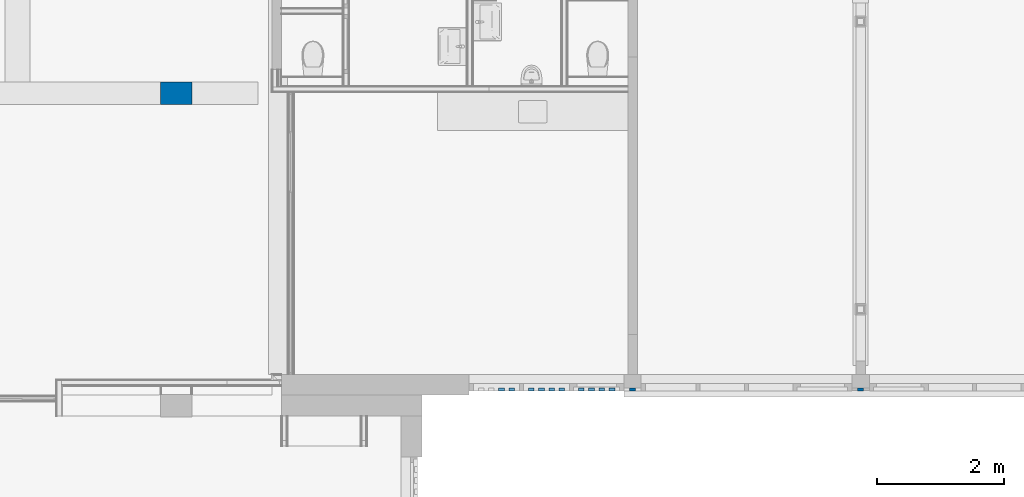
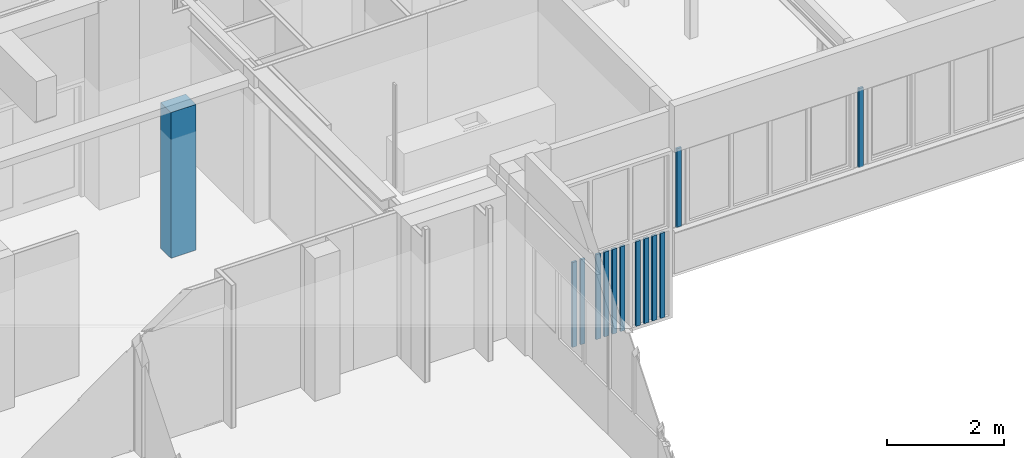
# One storey, part 15 of 117: 13 columns.
"""IFC2X3 building model written with IfcOpenShell, lengths in millimetres."""

from ifc_helpers import new_model, entity, si_unit, converted_unit, derived_unit, money_unit, direction, frame, origin_with_axes, place, context, subcontext, project, spatial, faceted_brep, material, type_object, element, save


model = new_model("IFC2X3")

# Units and contexts
model_context = context("Model", 3, precision=0.01, world=origin_with_axes(), true_north=direction((0.0, 1.0)))
body_context = subcontext(model_context, "Body", "Model", "MODEL_VIEW")
ifc_project = project(units=[si_unit("LENGTHUNIT", "METRE", prefix="MILLI"), si_unit("AREAUNIT", "SQUARE_METRE"), si_unit("VOLUMEUNIT", "CUBIC_METRE"), converted_unit("PLANEANGLEUNIT", "DEGREE", entity("IfcPlaneAngleMeasure", 0.0174532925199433), si_unit("PLANEANGLEUNIT", "RADIAN"), dimensions=[0, 0, 0, 0, 0, 0, 0]), money_unit("EUR"), converted_unit("TIMEUNIT", "Year", entity("IfcTimeMeasure", 31557600.0), si_unit("TIMEUNIT", "SECOND"), dimensions=[0, 0, 1, 0, 0, 0, 0]), si_unit("MASSUNIT", "GRAM", prefix="KILO"), si_unit("THERMODYNAMICTEMPERATUREUNIT", "DEGREE_CELSIUS"), si_unit("LUMINOUSINTENSITYUNIT", "LUMEN"), si_unit("ENERGYUNIT", "JOULE", prefix="MEGA"), derived_unit("THERMALCONDUCTANCEUNIT", [(si_unit("POWERUNIT", "WATT"), 1), (si_unit("LENGTHUNIT", "METRE"), -1), (si_unit("THERMODYNAMICTEMPERATUREUNIT", "KELVIN"), -1)]), derived_unit("SPECIFICHEATCAPACITYUNIT", [(si_unit("ENERGYUNIT", "JOULE"), 1), (si_unit("MASSUNIT", "GRAM", prefix="KILO"), -1), (si_unit("THERMODYNAMICTEMPERATUREUNIT", "KELVIN"), -1)]), derived_unit("MASSDENSITYUNIT", [(si_unit("MASSUNIT", "GRAM", prefix="KILO"), 1), (si_unit("VOLUMEUNIT", "CUBIC_METRE"), -1)])], contexts=[model_context])

# Site, building, storey
site_placement = place(None, origin_with_axes())
site = spatial("IfcSite", under=ifc_project, at=site_placement, Name="Site", CompositionType="ELEMENT")
building_placement = place(site_placement, origin_with_axes())
building = spatial("IfcBuilding", under=site, at=building_placement, Name="Naam gebouw", CompositionType="ELEMENT")
storey_placement = place(building_placement, frame((0.0, 0.0, 4150.0), z_axis=(0.0, 0.0, 1.0), x_axis=(1.0, 0.0, 0.0)))
storey = spatial("IfcBuildingStorey", under=building, at=storey_placement, Name="1e verdieping N", CompositionType="ELEMENT", Elevation=4150.0)

# Columns
ifc_material_1 = material(Name="Metaal - Staal C")
column_type_1 = type_object("IfcColumnType", Name="Metaal - Staal C 90 x 44", PredefinedType="COLUMN")
for number, where, z_axis, x_axis, name in (
    (1, (33931.94444444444, 10752.91242510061, -993.0000000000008), (0.0, 0.0, 1.0), (1.0, 0.0, 0.0), "_Kolom-x"),
    (2, (34092.83333333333, 10752.91242510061, -993.0000000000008), (0.0, 0.0, 1.0), (1.0, 0.0, 0.0), "_Kolom-x"),
    (3, (34401.16666666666, 10752.91242510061, -993.0000000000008), (0.0, 0.0, 1.0), (1.0, 0.0, 0.0), "_Kolom-x"),
    (4, (34562.05555555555, 10752.91242510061, -993.0000000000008), (0.0, 0.0, 1.0), (1.0, 0.0, 0.0), "_Kolom-x"),
    (5, (34722.94444444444, 10752.91242510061, -993.0000000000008), (0.0, 0.0, 1.0), (1.0, 0.0, 0.0), "_Kolom-x"),
    (6, (35192.16666666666, 10752.91242510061, -993.0000000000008), (0.0, 0.0, 1.0), (1.0, 0.0, 0.0), "_Kolom-x"),
    (7, (35353.05555555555, 10752.91242510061, -993.0000000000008), (0.0, 0.0, 1.0), (1.0, 0.0, 0.0), "_Kolom-x"),
    (8, (35513.94444444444, 10752.91242510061, -993.0000000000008), (0.0, 0.0, 1.0), (1.0, 0.0, 0.0), "_Kolom-x"),
    (9, (34883.83333333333, 10752.91242510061, -993.0000000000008), (0.0, 0.0, 1.0), (1.0, 0.0, 0.0), "_Kolom-x"),
    (10, (35674.83333333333, 10752.91242510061, -993.0000000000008), (0.0, 0.0, 1.0), (1.0, 0.0, 0.0), "_Kolom-x"),
):
    element("IfcColumn", number, at=place(storey_placement, frame(where, z_axis=z_axis, x_axis=x_axis)), inside=storey, type_object=column_type_1, material=ifc_material_1, Name=name, ObjectType="COLUMN", context=body_context, shape_type="Brep", body=[
        faceted_brep([(-45.00000000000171, -22.00000000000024, 1776.000000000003), (-45.00000000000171, -22.00000000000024, 0.0), (45.00000000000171, -22.00000000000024, 0.0), (45.00000000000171, -22.00000000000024, 1776.000000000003), (-45.00000000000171, 22.00000000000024, 1776.000000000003), (-45.00000000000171, 22.00000000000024, 0.0), (45.00000000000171, 22.00000000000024, 0.0), (45.00000000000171, 22.00000000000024, 1776.000000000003)], [[[0, 1, 2, 3]], [[4, 5, 1, 0]], [[2, 1, 5, 6]], [[3, 2, 6, 7]], [[4, 0, 3, 7]], [[7, 6, 5, 4]]]),
    ])
column_1_placement = place(storey_placement, frame((35999.99999999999, 10752.91242510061, 782.9999999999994), z_axis=(0.0, 0.0, 1.0), x_axis=(1.0, 0.0, 0.0)))
element("IfcColumn", 11, at=column_1_placement, inside=storey, type_object=column_type_1, material=ifc_material_1, Name="_Kolom-x", ObjectType="COLUMN", context=body_context, shape_type="Brep", body=[
    faceted_brep([(45.00000000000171, -22.00000000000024, 17.63269807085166), (45.00000000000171, -17.00000000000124, 18.51433297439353), (45.00000000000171, -17.00000000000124, 28.51433297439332), (45.00000000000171, -15.00000000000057, 28.51433297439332), (45.00000000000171, -15.00000000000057, 16.83613371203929), (45.00000000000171, -22.00000000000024, 15.6018448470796), (45.00000000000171, -22.00000000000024, 0.0), (45.00000000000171, 22.00000000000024, 0.0), (45.00000000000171, 22.00000000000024, 1657.0), (45.00000000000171, -22.00000000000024, 1657.0), (-45.00000000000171, -17.00000000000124, 18.51433297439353), (-45.00000000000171, -22.00000000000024, 17.63269807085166), (-45.00000000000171, -17.00000000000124, 28.51433297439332), (-45.00000000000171, -15.00000000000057, 28.51433297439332), (-45.00000000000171, -15.00000000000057, 16.83613371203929), (-45.00000000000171, -22.00000000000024, 15.6018448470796), (-45.00000000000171, -22.00000000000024, 0.0), (-45.00000000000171, 22.00000000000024, 0.0), (-45.00000000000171, 22.00000000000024, 1657.0), (-45.00000000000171, -22.00000000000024, 1657.0)], [[[0, 1, 2, 3, 4, 5, 6, 7, 8, 9]], [[10, 1, 0, 11]], [[12, 2, 1, 10]], [[13, 3, 2, 12]], [[14, 4, 3, 13]], [[15, 5, 4, 14]], [[6, 5, 15, 16]], [[7, 6, 16, 17]], [[18, 8, 7, 17]], [[8, 18, 19, 9]], [[19, 11, 0, 9]], [[12, 10, 11, 19, 18, 17, 16, 15, 14, 13]]]),
])
column_2_placement = place(storey_placement, frame((39599.99999999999, 10752.91242510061, 782.9999999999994), z_axis=(0.0, 0.0, 1.0), x_axis=(1.0, 0.0, 0.0)))
element("IfcColumn", 12, at=column_2_placement, inside=storey, type_object=column_type_1, material=ifc_material_1, Name="_Kolom-x", ObjectType="COLUMN", context=body_context, shape_type="Brep", body=[
    faceted_brep([(45.00000000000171, -22.00000000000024, 17.63269807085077), (45.00000000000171, -17.00000000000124, 18.51433297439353), (45.00000000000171, -17.00000000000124, 28.51433297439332), (45.00000000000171, -15.00000000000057, 28.51433297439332), (45.00000000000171, -15.00000000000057, 16.83613371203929), (45.00000000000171, -22.00000000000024, 15.6018448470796), (45.00000000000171, -22.00000000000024, 0.0), (45.00000000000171, 22.00000000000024, 0.0), (45.00000000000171, 22.00000000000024, 1657.0), (45.00000000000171, -22.00000000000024, 1657.0), (-45.00000000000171, -17.00000000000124, 18.51433297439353), (-45.00000000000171, -22.00000000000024, 17.63269807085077), (-45.00000000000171, -17.00000000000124, 28.51433297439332), (-45.00000000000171, -15.00000000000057, 28.51433297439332), (-45.00000000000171, -15.00000000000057, 16.83613371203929), (-45.00000000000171, -22.00000000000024, 15.6018448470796), (-45.00000000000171, -22.00000000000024, 0.0), (-45.00000000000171, 22.00000000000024, 0.0), (-45.00000000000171, 22.00000000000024, 1657.0), (-45.00000000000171, -22.00000000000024, 1657.0)], [[[0, 1, 2, 3, 4, 5, 6, 7, 8, 9]], [[10, 1, 0, 11]], [[12, 2, 1, 10]], [[13, 3, 2, 12]], [[14, 4, 3, 13]], [[15, 5, 4, 14]], [[6, 5, 15, 16]], [[7, 6, 16, 17]], [[18, 8, 7, 17]], [[8, 18, 19, 9]], [[19, 11, 0, 9]], [[12, 10, 11, 19, 18, 17, 16, 15, 14, 13]]]),
])
ifc_material_2 = material(Name="ALG - CONSTRUCTIEF")
column_type_2 = type_object("IfcColumnType", Name="ALG - CONSTRUCTIEF 500 x 355", PredefinedType="COLUMN")
column_3_placement = place(storey_placement, frame((28800.0, 15430.91242510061, -99.99999999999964), z_axis=(0.0, 0.0, 1.0), x_axis=(1.0, 0.0, 0.0)))
element("IfcColumn", 13, at=column_3_placement, inside=storey, type_object=column_type_2, material=ifc_material_2, Name="_Kolom-x", ObjectType="COLUMN", context=body_context, shape_type="Brep", body=[
    faceted_brep([(-250.0, 177.5000000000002, 99.99999999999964), (-250.0, 177.5000000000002, 3149.999999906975), (250.0, 177.5000000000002, 3149.999999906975), (250.0, 177.5000000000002, 99.99999999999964), (-250.0, -177.5000000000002, 99.99999999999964), (-250.0, -177.5000000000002, 3149.999999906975), (250.0, -177.5000000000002, 3149.999999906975), (250.0, -177.5000000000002, 99.99999999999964)], [[[0, 1, 2, 3]], [[4, 5, 1, 0]], [[5, 6, 2, 1]], [[3, 2, 6, 7]], [[7, 4, 0, 3]], [[7, 6, 5, 4]]]),
])

save(model, "model.ifc")
